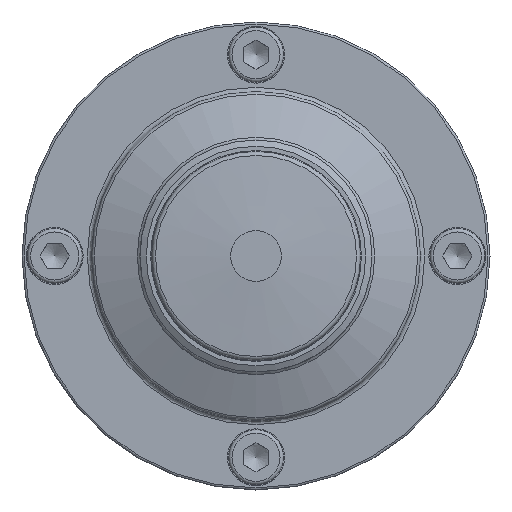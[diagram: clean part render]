
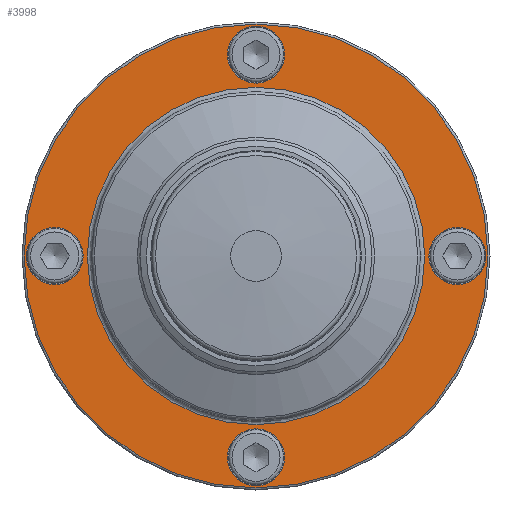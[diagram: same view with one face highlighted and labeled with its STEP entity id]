
A CAD part, front view. The second image highlights one B-rep face of the part: STEP entity #3998.
In plain terms, the highlighted planar face has unit normal (0, -1, 0).
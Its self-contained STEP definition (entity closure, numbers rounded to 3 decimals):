
#3923=CARTESIAN_POINT('',(55.,12.352,0.));
#3924=VERTEX_POINT('',#3923);
#3925=CARTESIAN_POINT('',(0.0,12.352,0.));
#3926=DIRECTION('',(0.0,1.0,0.0));
#3927=DIRECTION('',(-1.0,0.0,0.0));
#3928=AXIS2_PLACEMENT_3D('',#3925,#3926,#3927);
#3929=CIRCLE('',#3928,55.);
#3930=EDGE_CURVE('',#3924,#3924,#3929,.T.);
#3935=CARTESIAN_POINT('',(47.25,12.352,0.));
#3936=DIRECTION('',(0.0,-1.0,0.0));
#3937=DIRECTION('',(0.0,0.0,-1.0));
#3938=AXIS2_PLACEMENT_3D('',#3935,#3936,#3937);
#3939=PLANE('',#3938);
#3940=ORIENTED_EDGE('',*,*,#3930,.F.);
#3941=EDGE_LOOP('',(#3940));
#3942=FACE_OUTER_BOUND('',#3941,.T.);
#3943=CARTESIAN_POINT('',(40.0,12.352,0.));
#3944=VERTEX_POINT('',#3943);
#3945=CARTESIAN_POINT('',(0.0,12.352,0.));
#3946=DIRECTION('',(0.0,-1.0,0.0));
#3947=DIRECTION('',(-1.0,0.0,0.0));
#3948=AXIS2_PLACEMENT_3D('',#3945,#3946,#3947);
#3949=CIRCLE('',#3948,40.0);
#3950=EDGE_CURVE('',#3944,#3944,#3949,.T.);
#3951=ORIENTED_EDGE('',*,*,#3950,.F.);
#3952=EDGE_LOOP('',(#3951));
#3953=FACE_BOUND('',#3952,.T.);
#3954=CARTESIAN_POINT('',(47.75,12.352,-6.75));
#3955=VERTEX_POINT('',#3954);
#3956=CARTESIAN_POINT('',(47.75,12.352,0.));
#3957=DIRECTION('',(0.0,1.0,0.0));
#3958=DIRECTION('',(0.0,0.0,-1.0));
#3959=AXIS2_PLACEMENT_3D('',#3956,#3957,#3958);
#3960=CIRCLE('',#3959,6.75);
#3961=EDGE_CURVE('',#3955,#3955,#3960,.T.);
#3962=ORIENTED_EDGE('',*,*,#3961,.T.);
#3963=EDGE_LOOP('',(#3962));
#3964=FACE_BOUND('',#3963,.T.);
#3965=CARTESIAN_POINT('',(-6.75,12.352,-47.75));
#3966=VERTEX_POINT('',#3965);
#3967=CARTESIAN_POINT('',(0.,12.352,-47.75));
#3968=DIRECTION('',(0.0,1.0,0.0));
#3969=DIRECTION('',(-1.0,0.0,0.0));
#3970=AXIS2_PLACEMENT_3D('',#3967,#3968,#3969);
#3971=CIRCLE('',#3970,6.75);
#3972=EDGE_CURVE('',#3966,#3966,#3971,.T.);
#3973=ORIENTED_EDGE('',*,*,#3972,.T.);
#3974=EDGE_LOOP('',(#3973));
#3975=FACE_BOUND('',#3974,.T.);
#3976=CARTESIAN_POINT('',(-47.75,12.352,6.75));
#3977=VERTEX_POINT('',#3976);
#3978=CARTESIAN_POINT('',(-47.75,12.352,0.));
#3979=DIRECTION('',(0.0,1.0,0.0));
#3980=DIRECTION('',(0.0,0.0,1.0));
#3981=AXIS2_PLACEMENT_3D('',#3978,#3979,#3980);
#3982=CIRCLE('',#3981,6.75);
#3983=EDGE_CURVE('',#3977,#3977,#3982,.T.);
#3984=ORIENTED_EDGE('',*,*,#3983,.T.);
#3985=EDGE_LOOP('',(#3984));
#3986=FACE_BOUND('',#3985,.T.);
#3987=CARTESIAN_POINT('',(6.75,12.352,47.75));
#3988=VERTEX_POINT('',#3987);
#3989=CARTESIAN_POINT('',(0.0,12.352,47.75));
#3990=DIRECTION('',(0.0,1.0,0.0));
#3991=DIRECTION('',(1.0,0.0,0.0));
#3992=AXIS2_PLACEMENT_3D('',#3989,#3990,#3991);
#3993=CIRCLE('',#3992,6.75);
#3994=EDGE_CURVE('',#3988,#3988,#3993,.T.);
#3995=ORIENTED_EDGE('',*,*,#3994,.T.);
#3996=EDGE_LOOP('',(#3995));
#3997=FACE_BOUND('',#3996,.T.);
#3998=ADVANCED_FACE('',(#3942,#3953,#3964,#3975,#3986,#3997),#3939,.T.);
